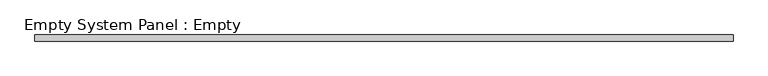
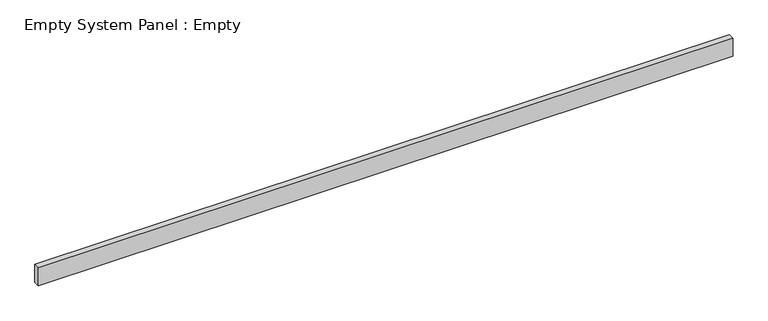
"""IFC4 building model written with IfcOpenShell, lengths in millimetres: plate geometry, Empty System Panel : Empty."""

from ifc_helpers import new_model, si_unit, origin, origin_with_axes, place, context, project, spatial, polyline, outline, extrude, source, transform, mapped, element, save


def empty_system_panel_empty_3b86aaa0(model_context):
    return source(origin(), model_context, "Body", "SweptSolid", [
        extrude(outline(polyline([(5675.0, -50.0), (-5675.0, -50.0), (-5675.0, 50.0), (5675.0, 50.0), (5675.0, -50.0)])), origin_with_axes(), (0.0, 0.0, 1.0), 310.0),
    ])


if __name__ == "__main__":
    model = new_model("IFC4")
    model_context = context("Model", 3, world=origin())
    ifc_project = project(units=[si_unit("LENGTHUNIT", "METRE", prefix="MILLI")], contexts=[model_context])
    site = spatial("IfcSite", under=ifc_project)
    building = spatial("IfcBuilding", under=site)
    placement = place(None, origin())
    empty_system_panel_empty_shape = empty_system_panel_empty_3b86aaa0(model_context)
    element("IfcPlate", 1, ObjectType="Empty System Panel : Empty", at=placement, inside=building, context=model_context, shape_type="MappedRepresentation", body=[
        mapped(empty_system_panel_empty_shape, transform((0.0, 0.0, 0.0), x_axis=(1.0, 0.0, 0.0), y_axis=(0.0, 1.0, 0.0), z_axis=(0.0, 0.0, 1.0))),
    ])
    save(model, "model.ifc")
